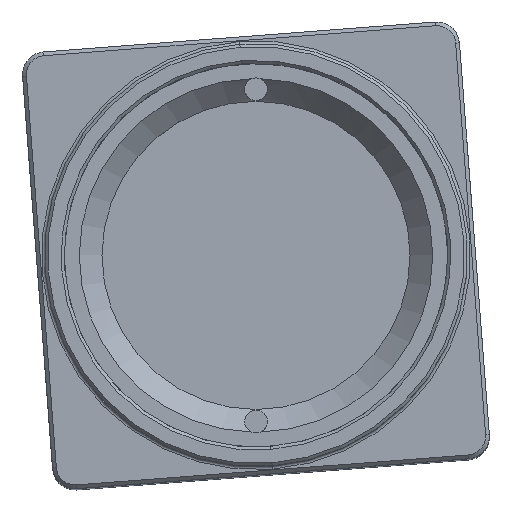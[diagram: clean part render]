
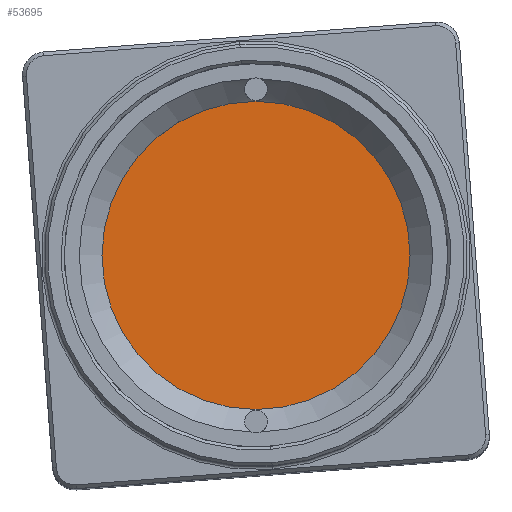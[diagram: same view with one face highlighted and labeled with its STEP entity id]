
A CAD part, top view. The second image highlights one B-rep face of the part: STEP entity #53695.
In plain terms, the highlighted planar face has unit normal (0, 0, 1).
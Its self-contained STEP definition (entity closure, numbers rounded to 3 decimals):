
#6151 = CARTESIAN_POINT ( 'NONE',  ( 10.574, 7.901, 19.082 ) ) ;
#10310 = AXIS2_PLACEMENT_3D ( 'NONE', #13545, #23636, #62336 ) ;
#13545 = CARTESIAN_POINT ( 'NONE',  ( 10.574, 7.901, 19.082 ) ) ;
#14246 = CIRCLE ( 'NONE', #10310, 11.25 ) ;
#18276 = DIRECTION ( 'NONE',  ( 0., 0., 1. ) ) ;
#19750 = AXIS2_PLACEMENT_3D ( 'NONE', #6151, #25671, #54666 ) ;
#21377 = AXIS2_PLACEMENT_3D ( 'NONE', #47095, #18276, #37385 ) ;
#23636 = DIRECTION ( 'NONE',  ( 0., 0., 1. ) ) ;
#25671 = DIRECTION ( 'NONE',  ( 0., 0., 1. ) ) ;
#28369 = ORIENTED_EDGE ( 'NONE', *, *, #40238, .T. ) ;
#29991 = ORIENTED_EDGE ( 'NONE', *, *, #36500, .T. ) ;
#36500 = EDGE_CURVE ( 'NONE', #47978, #43129, #37185, .T. ) ;
#37185 = CIRCLE ( 'NONE', #21377, 11.25 ) ;
#37385 = DIRECTION ( 'NONE',  ( 1., 0., 0. ) ) ;
#37613 = EDGE_LOOP ( 'NONE', ( #29991, #28369 ) ) ;
#40238 = EDGE_CURVE ( 'NONE', #43129, #47978, #14246, .T. ) ;
#43129 = VERTEX_POINT ( 'NONE', #53885 ) ;
#45068 = FACE_OUTER_BOUND ( 'NONE', #37613, .T. ) ;
#46373 = CARTESIAN_POINT ( 'NONE',  ( -0.676, 7.901, 19.082 ) ) ;
#47095 = CARTESIAN_POINT ( 'NONE',  ( 10.574, 7.901, 19.082 ) ) ;
#47978 = VERTEX_POINT ( 'NONE', #46373 ) ;
#53695 = ADVANCED_FACE ( 'NONE', ( #45068 ), #59723, .T. ) ;
#53885 = CARTESIAN_POINT ( 'NONE',  ( 21.824, 7.901, 19.082 ) ) ;
#54666 = DIRECTION ( 'NONE',  ( 1., 0., 0. ) ) ;
#59723 = PLANE ( 'NONE',  #19750 ) ;
#62336 = DIRECTION ( 'NONE',  ( 1., 0., 0. ) ) ;
